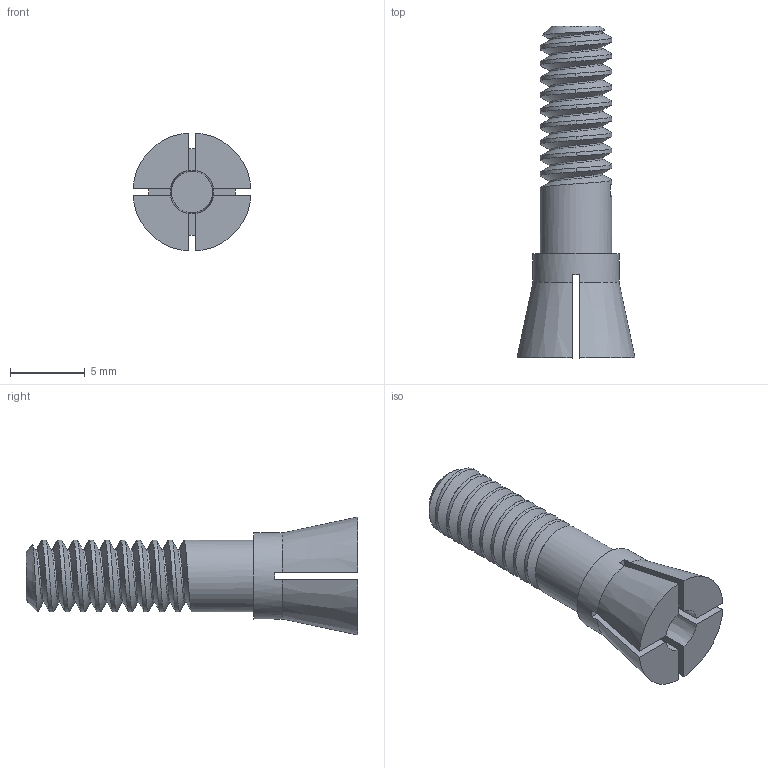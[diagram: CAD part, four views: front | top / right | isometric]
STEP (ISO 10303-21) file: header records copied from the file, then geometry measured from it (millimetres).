
FILE_DESCRIPTION(/* description */ ('STEP AP214','CAx-IF Rec.Pracs.---User Defined Attributes---1.5---2016-08-15'),/* implementation_level */ '2;1');
FILE_NAME(/* name */ '6adec04f98f5f667e2129873',/* time_stamp */ '2026-10-26T02:52:00Z',/* author */ (''),/* organization */ (''),/* preprocessor_version */ 'ST-DEVELOPER v20',/* originating_system */ 'ONSHAPE BY PTC INC, 1.222',/* authorisation */ ' ');
FILE_SCHEMA (('AUTOMOTIVE_DESIGN {1 0 10303 214 3 1 1}'));
Length unit declared in the file: metre
Products named in the file (1): BLDC_A2212_13T_1000KV_PropThread-1
Bounding box: 7.91 x 22.25 x 7.91 mm (x, y, z)
Volume: 396 mm3; surface area: 677.7 mm2
Topology: 1 solids, 1 shells, 41 faces, 115 edges, 77 vertices
Faces by surface type: plane 20, cylinder 12, cone 7, bspline 2
Full cylindrical faces by diameter (mm): 4.826 x9, 5.791 x1
Entity records: 2810 total; most frequent: CARTESIAN_POINT 2069, ORIENTED_EDGE 152, DIRECTION 138, EDGE_CURVE 76, AXIS2_PLACEMENT_3D 56, VERTEX_POINT 52, EDGE_LOOP 36, FACE_BOUND 36
